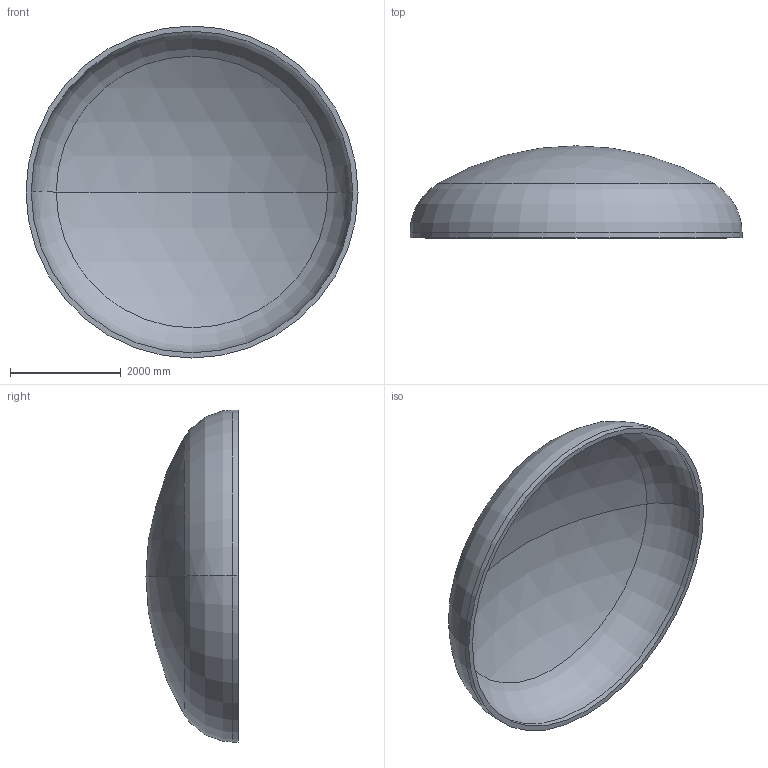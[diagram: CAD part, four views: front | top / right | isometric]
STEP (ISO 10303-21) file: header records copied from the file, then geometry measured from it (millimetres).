
FILE_DESCRIPTION (( 'STEP AP203' ), '1' );
FILE_NAME ('DIN 28013 Korbbogenform_-_Boden DIN 28013 - 6000 x 100 - I - s=94.step', '2016-07-04T10:38:37', ( '' ), ( '' ), 'SwSTEP 2.0', 'SolidWorks 2013', '' );
FILE_SCHEMA (( 'CONFIG_CONTROL_DESIGN' ));
Length unit declared in the file: millimetre
Products named in the file (1): DIN 28013 Korbbogenform_-_Boden DIN 28013 - 6000 x 100 - I - s=94
Bounding box: 6000 x 1663.65 x 6000 mm (x, y, z)
Volume: 3780829479.3 mm3; surface area: 82205755.6 mm2
Topology: 1 solids, 1 shells, 13 faces, 24 edges, 14 vertices
Faces by surface type: torus 4, cylinder 4, sphere 4, plane 1
Entity records: 407 total; most frequent: DIRECTION 72, CARTESIAN_POINT 52, ORIENTED_EDGE 48, AXIS2_PLACEMENT_3D 34, EDGE_CURVE 24, CIRCLE 20, VERTEX_POINT 14, EDGE_LOOP 14
